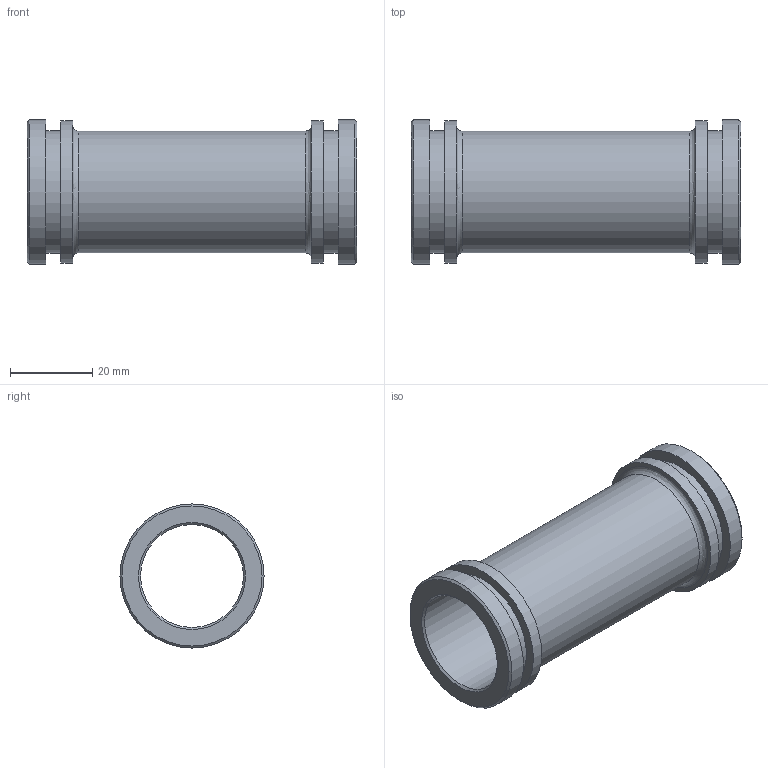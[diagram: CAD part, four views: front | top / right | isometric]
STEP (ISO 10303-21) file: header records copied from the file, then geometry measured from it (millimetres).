
FILE_DESCRIPTION((''),'2;1');
FILE_NAME('N:\CAD\ARCHIV\5350 (-999)\Standardhülsen\5350.025.080\Kundenteil 3D\5350.025.080 Kunden.stp','2009-02-13T12:46:13',('HWalkhoff'),(''),'Autodesk Inventor 2009','Autodesk Inventor 2009','');
FILE_SCHEMA(('AUTOMOTIVE_DESIGN { 1 0 10303 214 1 1 1 1 }'));
Length unit declared in the file: millimetre
Products named in the file (1): Hülse für Kunden
Bounding box: 80 x 35 x 35 mm (x, y, z)
Volume: 19484.7 mm3; surface area: 16185.7 mm2
Topology: 1 solids, 1 shells, 22 faces, 36 edges, 22 vertices
Faces by surface type: cylinder 8, plane 8, cone 4, bspline 2
Full cylindrical faces by diameter (mm): 25 x1, 29.5 x1, 29.76 x2, 34.5 x2, 35 x2
Entity records: 554 total; most frequent: CARTESIAN_POINT 155, DIRECTION 86, ORIENTED_EDGE 44, EDGE_LOOP 44, AXIS2_PLACEMENT_3D 43, VERTEX_POINT 22, CIRCLE 22, EDGE_CURVE 22
